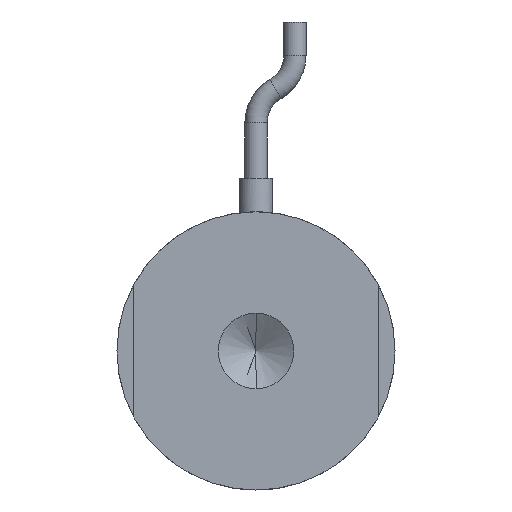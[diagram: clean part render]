
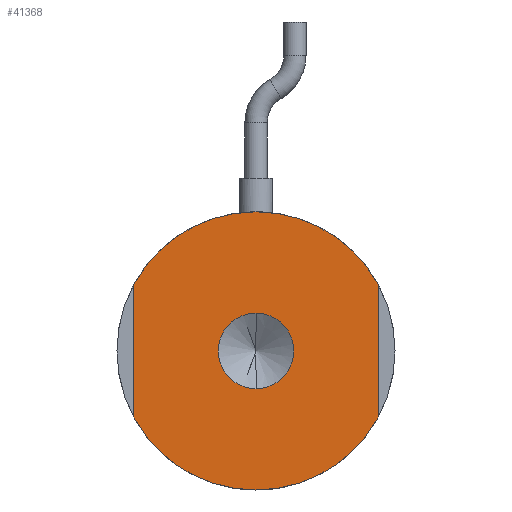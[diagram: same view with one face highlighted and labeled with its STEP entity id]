
A CAD part, front view. The second image highlights one B-rep face of the part: STEP entity #41368.
In plain terms, the highlighted planar face has unit normal (0, -1, 0).
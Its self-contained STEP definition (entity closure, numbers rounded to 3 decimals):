
#100 = ORIENTED_EDGE ( 'NONE', *, *, #8531, .F. ) ;
#608 = VERTEX_POINT ( 'NONE', #10585 ) ;
#1716 = CARTESIAN_POINT ( 'NONE',  ( 11., 0., -5.937 ) ) ;
#2015 = CARTESIAN_POINT ( 'NONE',  ( 0., 0., 0. ) ) ;
#2183 = ORIENTED_EDGE ( 'NONE', *, *, #13528, .F. ) ;
#2877 = VERTEX_POINT ( 'NONE', #8253 ) ;
#3525 = ORIENTED_EDGE ( 'NONE', *, *, #40787, .F. ) ;
#3940 = EDGE_CURVE ( 'NONE', #608, #37787, #18955, .T. ) ;
#4953 = AXIS2_PLACEMENT_3D ( 'NONE', #2015, #26161, #5486 ) ;
#5486 = DIRECTION ( 'NONE',  ( 0., 0., 1. ) ) ;
#6179 = CARTESIAN_POINT ( 'NONE',  ( 0., 0., -3.4 ) ) ;
#7947 = CARTESIAN_POINT ( 'NONE',  ( 0., 0., 3.4 ) ) ;
#8253 = CARTESIAN_POINT ( 'NONE',  ( -11., 0., 5.937 ) ) ;
#8531 = EDGE_CURVE ( 'NONE', #29747, #25151, #8595, .T. ) ;
#8595 = CIRCLE ( 'NONE', #11676, 3.4 ) ;
#9898 = DIRECTION ( 'NONE',  ( 0., 1., 0. ) ) ;
#10585 = CARTESIAN_POINT ( 'NONE',  ( 11., 0., 5.937 ) ) ;
#11676 = AXIS2_PLACEMENT_3D ( 'NONE', #34690, #14049, #38118 ) ;
#11761 = CIRCLE ( 'NONE', #38342, 12.5 ) ;
#12032 = VERTEX_POINT ( 'NONE', #41518 ) ;
#13528 = EDGE_CURVE ( 'NONE', #30832, #608, #11761, .T. ) ;
#13933 = DIRECTION ( 'NONE',  ( 0., -1., 0. ) ) ;
#14049 = DIRECTION ( 'NONE',  ( 0., -1., 0. ) ) ;
#14901 = ORIENTED_EDGE ( 'NONE', *, *, #37836, .F. ) ;
#14973 = AXIS2_PLACEMENT_3D ( 'NONE', #35816, #15170, #39273 ) ;
#15170 = DIRECTION ( 'NONE',  ( 0., 1., 0. ) ) ;
#16379 = PLANE ( 'NONE',  #26633 ) ;
#16921 = CARTESIAN_POINT ( 'NONE',  ( 0., 0., 0. ) ) ;
#18677 = CIRCLE ( 'NONE', #41042, 12.5 ) ;
#18955 = LINE ( 'NONE', #36568, #27105 ) ;
#19659 = FACE_BOUND ( 'NONE', #41826, .T. ) ;
#20156 = CARTESIAN_POINT ( 'NONE',  ( -11., 0., 0. ) ) ;
#20391 = DIRECTION ( 'NONE',  ( 0., 0., 1. ) ) ;
#21398 = CIRCLE ( 'NONE', #4953, 12.5 ) ;
#21765 = ORIENTED_EDGE ( 'NONE', *, *, #38686, .F. ) ;
#23473 = ORIENTED_EDGE ( 'NONE', *, *, #3940, .F. ) ;
#23662 = DIRECTION ( 'NONE',  ( 0., 0., 1. ) ) ;
#23988 = LINE ( 'NONE', #20156, #43337 ) ;
#25151 = VERTEX_POINT ( 'NONE', #7947 ) ;
#26161 = DIRECTION ( 'NONE',  ( 0., 1., 0. ) ) ;
#26633 = AXIS2_PLACEMENT_3D ( 'NONE', #33587, #30148, #40509 ) ;
#27105 = VECTOR ( 'NONE', #37006, 1000. ) ;
#27465 = CIRCLE ( 'NONE', #14973, 12.5 ) ;
#27504 = AXIS2_PLACEMENT_3D ( 'NONE', #34576, #13933, #38004 ) ;
#28863 = FACE_OUTER_BOUND ( 'NONE', #44380, .T. ) ;
#29747 = VERTEX_POINT ( 'NONE', #6179 ) ;
#30148 = DIRECTION ( 'NONE',  ( 0., 1., 0. ) ) ;
#30582 = CARTESIAN_POINT ( 'NONE',  ( 0., 0., 0. ) ) ;
#30657 = ORIENTED_EDGE ( 'NONE', *, *, #42516, .F. ) ;
#30832 = VERTEX_POINT ( 'NONE', #35421 ) ;
#31742 = CARTESIAN_POINT ( 'NONE',  ( -11., 0., -5.937 ) ) ;
#32736 = EDGE_CURVE ( 'NONE', #12032, #41864, #27465, .T. ) ;
#33587 = CARTESIAN_POINT ( 'NONE',  ( 0., 0., 0. ) ) ;
#34032 = DIRECTION ( 'NONE',  ( 0., 0., 1. ) ) ;
#34276 = CIRCLE ( 'NONE', #27504, 3.4 ) ;
#34576 = CARTESIAN_POINT ( 'NONE',  ( 0., 0., 0. ) ) ;
#34690 = CARTESIAN_POINT ( 'NONE',  ( 0., 0., 0. ) ) ;
#35421 = CARTESIAN_POINT ( 'NONE',  ( 0., 0., 12.5 ) ) ;
#35816 = CARTESIAN_POINT ( 'NONE',  ( 0., 0., 0. ) ) ;
#36568 = CARTESIAN_POINT ( 'NONE',  ( 11., 0., 0. ) ) ;
#37006 = DIRECTION ( 'NONE',  ( 0., 0., -1. ) ) ;
#37787 = VERTEX_POINT ( 'NONE', #1716 ) ;
#37836 = EDGE_CURVE ( 'NONE', #2877, #30832, #21398, .T. ) ;
#38004 = DIRECTION ( 'NONE',  ( 0., 0., -1. ) ) ;
#38118 = DIRECTION ( 'NONE',  ( 0., 0., -1. ) ) ;
#38342 = AXIS2_PLACEMENT_3D ( 'NONE', #16921, #41044, #20391 ) ;
#38686 = EDGE_CURVE ( 'NONE', #37787, #12032, #18677, .T. ) ;
#39273 = DIRECTION ( 'NONE',  ( 0., 0., 1. ) ) ;
#40509 = DIRECTION ( 'NONE',  ( 0., 0., 1. ) ) ;
#40787 = EDGE_CURVE ( 'NONE', #25151, #29747, #34276, .T. ) ;
#41042 = AXIS2_PLACEMENT_3D ( 'NONE', #30582, #9898, #34032 ) ;
#41044 = DIRECTION ( 'NONE',  ( 0., 1., 0. ) ) ;
#41368 = ADVANCED_FACE ( 'NONE', ( #19659, #28863 ), #16379, .F. ) ;
#41518 = CARTESIAN_POINT ( 'NONE',  ( 0., 0., -12.5 ) ) ;
#41826 = EDGE_LOOP ( 'NONE', ( #100, #3525 ) ) ;
#41864 = VERTEX_POINT ( 'NONE', #31742 ) ;
#42516 = EDGE_CURVE ( 'NONE', #41864, #2877, #23988, .T. ) ;
#43310 = ORIENTED_EDGE ( 'NONE', *, *, #32736, .F. ) ;
#43337 = VECTOR ( 'NONE', #23662, 1000. ) ;
#44380 = EDGE_LOOP ( 'NONE', ( #30657, #43310, #21765, #23473, #2183, #14901 ) ) ;
